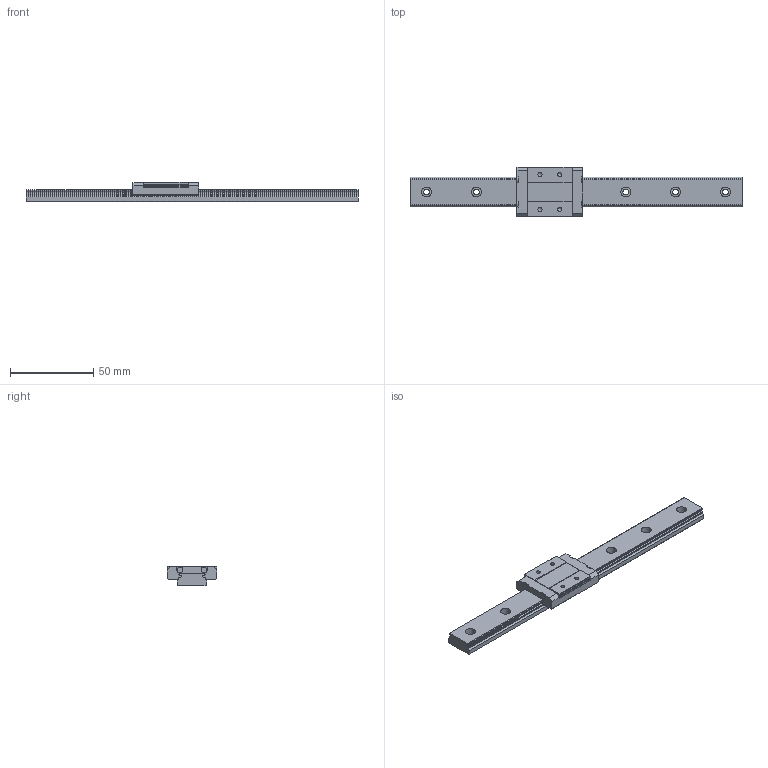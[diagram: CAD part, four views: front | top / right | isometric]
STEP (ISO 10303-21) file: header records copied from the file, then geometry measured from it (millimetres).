
FILE_DESCRIPTION((''),'2;1');
FILE_NAME('D:\製品 (図面)\カタログ用3D\リニアガイド関連\STEP形式\LGM-W\LGM9W.stp','2010-06-02T15:57:36',('Tsuchiya'),(''),'Autodesk Inventor 10','Autodesk Inventor 10','');
FILE_SCHEMA(('AUTOMOTIVE_DESIGN { 1 0 10303 214 1 1 1 1 }'));
Length unit declared in the file: millimetre
Products named in the file (3): LGM9W; LGM9W1; LGM9W2
Assembly tree (2 placements, depth 2):
  LGM9W
    LGM9W1
    LGM9W2
Bounding box: 200 x 30 x 12 mm (x, y, z)
Volume: 30494.7 mm3; surface area: 15447.9 mm2
Topology: 2 solids, 2 shells, 147 faces, 394 edges, 262 vertices
Faces by surface type: plane 78, bspline 35, cylinder 32, cone 2
Full cylindrical faces by diameter (mm): 2.459 x2, 3.5 x2
Entity records: 4802 total; most frequent: CARTESIAN_POINT 1183, ORIENTED_EDGE 724, DIRECTION 700, EDGE_CURVE 362, VECTOR 258, LINE 258, VERTEX_POINT 256, AXIS2_PLACEMENT_3D 221
